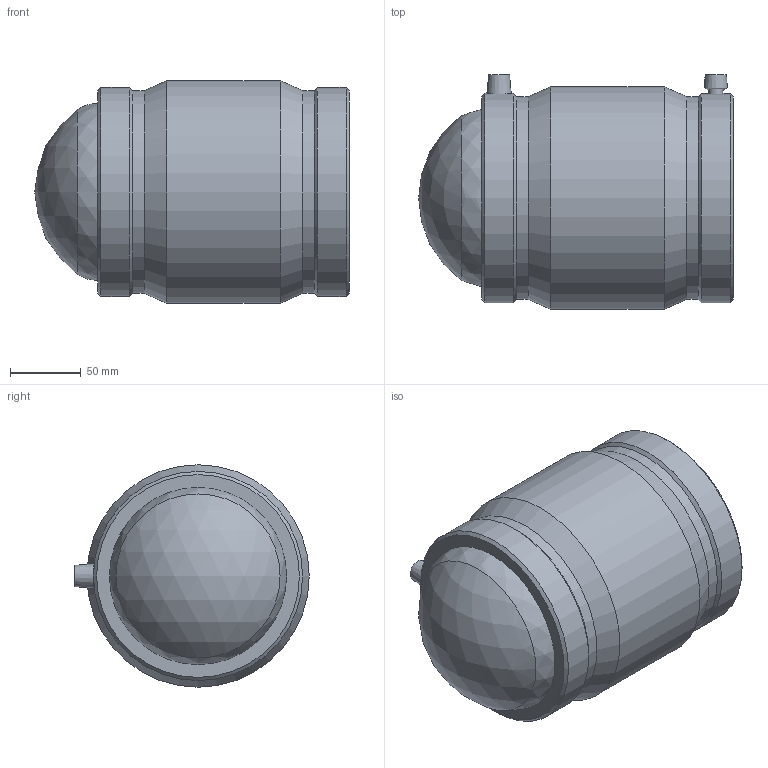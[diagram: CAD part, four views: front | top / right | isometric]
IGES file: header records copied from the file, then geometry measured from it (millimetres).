
Global section: file name: 491204125.ipt; native system: Autodesk Inventor 2015; preprocessor: unknown; author: KIM; date: 20171106.093756; units: millimetre
Bounding box: 222 x 165.5 x 157 mm (x, y, z)
Volume: 1608469.7 mm3; surface area: 199473.6 mm2
Topology: 2 solids, 3 shells, 40 faces, 84 edges, 58 vertices
Faces by surface type: plane 12, revolution 11, cylinder 8, cone 8, sphere 1
Full cylindrical faces by diameter (mm): 4 x2, 125 x1, 143.153 x2, 147.58 x2, 157 x1
